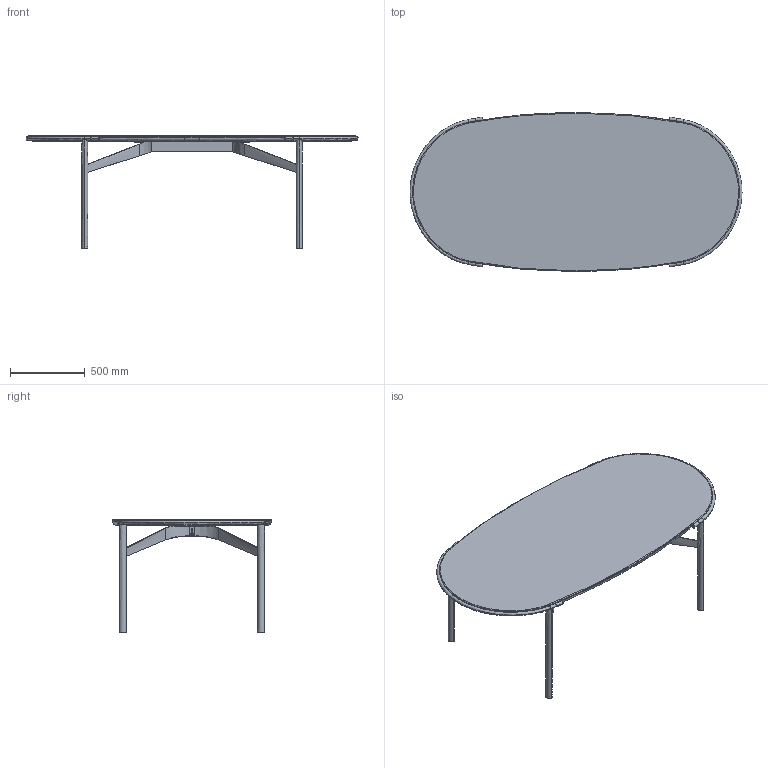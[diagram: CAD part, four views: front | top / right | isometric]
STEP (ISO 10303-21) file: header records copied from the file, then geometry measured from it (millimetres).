
FILE_DESCRIPTION(/* description */ (''),/* implementation_level */ '2;1');
FILE_NAME(/* name */ 'MNLBXU~H',/* time_stamp */ '2024-07-04T11:21:12+02:00',/* author */ (''),/* organization */ (''),/* preprocessor_version */ 'ST-DEVELOPER v15',/* originating_system */ '',/* authorisation */ '');
FILE_SCHEMA (('AUTOMOTIVE_DESIGN'));
Length unit declared in the file: centimetre
Products named in the file (1): Document
Bounding box: 2216.6 x 1059.31 x 754.39 mm (x, y, z)
Volume: 12247120.7 mm3; surface area: 9412877.2 mm2
Topology: 14 solids, 17 shells, 294 faces, 838 edges, 566 vertices
Faces by surface type: bspline 294
Entity records: 24983 total; most frequent: CARTESIAN_POINT 19618, ORIENTED_EDGE 1640, EDGE_CURVE 838, B_SPLINE_CURVE_WITH_KNOTS 838, VERTEX_POINT 566, EDGE_LOOP 340, ADVANCED_FACE 294, FACE_OUTER_BOUND 294
